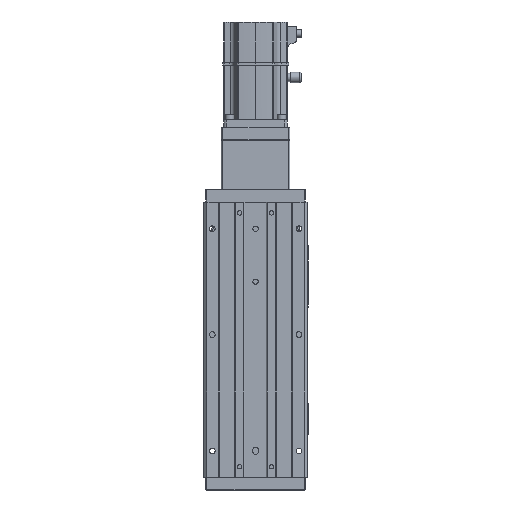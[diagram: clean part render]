
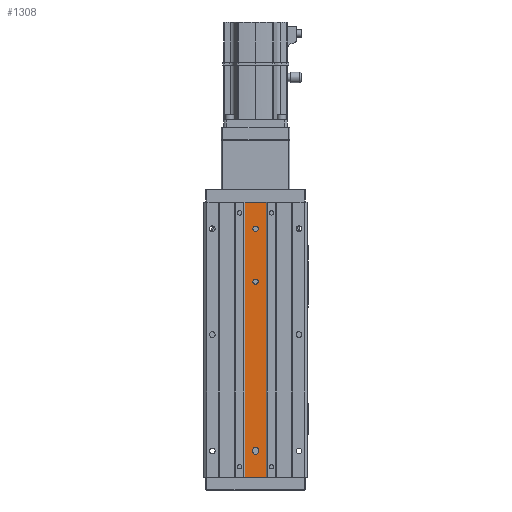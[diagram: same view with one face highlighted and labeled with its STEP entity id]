
A CAD part, front view. The second image highlights one B-rep face of the part: STEP entity #1308.
In plain terms, the highlighted planar face has unit normal (0, -1, 0).
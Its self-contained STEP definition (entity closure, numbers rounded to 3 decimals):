
#99 = VERTEX_POINT ( 'NONE', #14570 ) ;
#249 = CARTESIAN_POINT ( 'NONE',  ( 10., 1., -130. ) ) ;
#1196 = VERTEX_POINT ( 'NONE', #8279 ) ;
#1308 = ADVANCED_FACE ( 'NONE', ( #8927, #22074, #35220, #5700 ), #18856, .F. ) ;
#1505 = CIRCLE ( 'NONE', #25586, 2.5 ) ;
#1707 = VERTEX_POINT ( 'NONE', #28486 ) ;
#2454 = DIRECTION ( 'NONE',  ( 0., 1., 0. ) ) ;
#3198 = EDGE_CURVE ( 'NONE', #16963, #11637, #29784, .T. ) ;
#3485 = CIRCLE ( 'NONE', #27562, 2.5 ) ;
#3540 = DIRECTION ( 'NONE',  ( 0., 0., -1. ) ) ;
#3998 = ORIENTED_EDGE ( 'NONE', *, *, #33875, .F. ) ;
#4662 = DIRECTION ( 'NONE',  ( 1., 0., 0. ) ) ;
#5099 = EDGE_LOOP ( 'NONE', ( #39895, #3998 ) ) ;
#5700 = FACE_OUTER_BOUND ( 'NONE', #23909, .T. ) ;
#6306 = VECTOR ( 'NONE', #35194, 1000. ) ;
#6916 = VERTEX_POINT ( 'NONE', #35158 ) ;
#7768 = ORIENTED_EDGE ( 'NONE', *, *, #42453, .F. ) ;
#7834 = DIRECTION ( 'NONE',  ( 0., -1., 0. ) ) ;
#8279 = CARTESIAN_POINT ( 'NONE',  ( -2.5, 1., 55. ) ) ;
#8645 = LINE ( 'NONE', #21786, #31379 ) ;
#8903 = LINE ( 'NONE', #22048, #6306 ) ;
#8927 = FACE_BOUND ( 'NONE', #5099, .T. ) ;
#9121 = CARTESIAN_POINT ( 'NONE',  ( 10., 1., -130. ) ) ;
#9159 = CARTESIAN_POINT ( 'NONE',  ( 0., 1., 55. ) ) ;
#9421 = AXIS2_PLACEMENT_3D ( 'NONE', #31977, #2454, #15617 ) ;
#9915 = AXIS2_PLACEMENT_3D ( 'NONE', #37357, #7834, #20967 ) ;
#10653 = LINE ( 'NONE', #23769, #18841 ) ;
#11358 = VECTOR ( 'NONE', #3540, 1000. ) ;
#11394 = CARTESIAN_POINT ( 'NONE',  ( -2.5, 1., -106. ) ) ;
#11637 = VERTEX_POINT ( 'NONE', #12089 ) ;
#11895 = DIRECTION ( 'NONE',  ( 1., 0., 0. ) ) ;
#12089 = CARTESIAN_POINT ( 'NONE',  ( 10., 1., 130. ) ) ;
#12276 = ORIENTED_EDGE ( 'NONE', *, *, #3198, .T. ) ;
#12361 = DIRECTION ( 'NONE',  ( -1., 0., 0. ) ) ;
#12482 = CARTESIAN_POINT ( 'NONE',  ( -10., 1., -130. ) ) ;
#12852 = EDGE_CURVE ( 'NONE', #17468, #22545, #8903, .T. ) ;
#13048 = CARTESIAN_POINT ( 'NONE',  ( 0., 1., 105. ) ) ;
#13414 = DIRECTION ( 'NONE',  ( 0., 0., 1. ) ) ;
#14570 = CARTESIAN_POINT ( 'NONE',  ( -2.5, 1., -104. ) ) ;
#14939 = VECTOR ( 'NONE', #13414, 1000. ) ;
#15367 = CARTESIAN_POINT ( 'NONE',  ( 0., 1., -104. ) ) ;
#15617 = DIRECTION ( 'NONE',  ( -1., 0., 0. ) ) ;
#16157 = VERTEX_POINT ( 'NONE', #31662 ) ;
#16524 = VERTEX_POINT ( 'NONE', #11394 ) ;
#16963 = VERTEX_POINT ( 'NONE', #9121 ) ;
#17011 = CIRCLE ( 'NONE', #41093, 2.5 ) ;
#17468 = VERTEX_POINT ( 'NONE', #39797 ) ;
#17805 = EDGE_CURVE ( 'NONE', #39655, #6916, #18140, .T. ) ;
#18140 = CIRCLE ( 'NONE', #42247, 2.5 ) ;
#18841 = VECTOR ( 'NONE', #36937, 1000. ) ;
#18856 = PLANE ( 'NONE',  #9421 ) ;
#19154 = ORIENTED_EDGE ( 'NONE', *, *, #27933, .F. ) ;
#19751 = ORIENTED_EDGE ( 'NONE', *, *, #41214, .F. ) ;
#19926 = LINE ( 'NONE', #33058, #11358 ) ;
#20924 = EDGE_CURVE ( 'NONE', #16963, #38296, #28737, .T. ) ;
#20967 = DIRECTION ( 'NONE',  ( 1., 0., 0. ) ) ;
#21048 = CARTESIAN_POINT ( 'NONE',  ( 0., 1., 105. ) ) ;
#21786 = CARTESIAN_POINT ( 'NONE',  ( -10., 1., 130. ) ) ;
#22048 = CARTESIAN_POINT ( 'NONE',  ( 2.5, 1., -104. ) ) ;
#22074 = FACE_BOUND ( 'NONE', #38091, .T. ) ;
#22306 = DIRECTION ( 'NONE',  ( 0., -1., 0. ) ) ;
#22545 = VERTEX_POINT ( 'NONE', #40397 ) ;
#23769 = CARTESIAN_POINT ( 'NONE',  ( -10., 1., -130. ) ) ;
#23909 = EDGE_LOOP ( 'NONE', ( #32547, #19751, #41407, #12276 ) ) ;
#23971 = ORIENTED_EDGE ( 'NONE', *, *, #27517, .F. ) ;
#24574 = CIRCLE ( 'NONE', #30113, 2.5 ) ;
#25586 = AXIS2_PLACEMENT_3D ( 'NONE', #21048, #34174, #4662 ) ;
#26168 = DIRECTION ( 'NONE',  ( 0., -1., 0. ) ) ;
#26765 = EDGE_CURVE ( 'NONE', #11637, #1707, #8645, .T. ) ;
#27455 = ORIENTED_EDGE ( 'NONE', *, *, #12852, .F. ) ;
#27517 = EDGE_CURVE ( 'NONE', #1196, #16157, #17011, .T. ) ;
#27562 = AXIS2_PLACEMENT_3D ( 'NONE', #28249, #41422, #11895 ) ;
#27933 = EDGE_CURVE ( 'NONE', #22545, #99, #24574, .T. ) ;
#28249 = CARTESIAN_POINT ( 'NONE',  ( 0., 1., 55. ) ) ;
#28486 = CARTESIAN_POINT ( 'NONE',  ( -10., 1., 130. ) ) ;
#28488 = CIRCLE ( 'NONE', #9915, 2.5 ) ;
#28494 = DIRECTION ( 'NONE',  ( 0., -1., 0. ) ) ;
#28737 = LINE ( 'NONE', #41895, #33041 ) ;
#29719 = CARTESIAN_POINT ( 'NONE',  ( 2.5, 1., 105. ) ) ;
#29784 = LINE ( 'NONE', #249, #14939 ) ;
#30113 = AXIS2_PLACEMENT_3D ( 'NONE', #15367, #28494, #41652 ) ;
#31379 = VECTOR ( 'NONE', #34925, 1000. ) ;
#31662 = CARTESIAN_POINT ( 'NONE',  ( 2.5, 1., 55. ) ) ;
#31977 = CARTESIAN_POINT ( 'NONE',  ( -10., 1., -130. ) ) ;
#32547 = ORIENTED_EDGE ( 'NONE', *, *, #26765, .T. ) ;
#33041 = VECTOR ( 'NONE', #12361, 1000. ) ;
#33058 = CARTESIAN_POINT ( 'NONE',  ( -2.5, 1., -104. ) ) ;
#33875 = EDGE_CURVE ( 'NONE', #6916, #39655, #1505, .T. ) ;
#34174 = DIRECTION ( 'NONE',  ( 0., -1., 0. ) ) ;
#34925 = DIRECTION ( 'NONE',  ( -1., 0., 0. ) ) ;
#35158 = CARTESIAN_POINT ( 'NONE',  ( -2.5, 1., 105. ) ) ;
#35194 = DIRECTION ( 'NONE',  ( 0., 0., 1. ) ) ;
#35220 = FACE_BOUND ( 'NONE', #38474, .T. ) ;
#35452 = DIRECTION ( 'NONE',  ( 1., 0., 0. ) ) ;
#35969 = EDGE_CURVE ( 'NONE', #16524, #17468, #28488, .T. ) ;
#36937 = DIRECTION ( 'NONE',  ( 0., 0., 1. ) ) ;
#37357 = CARTESIAN_POINT ( 'NONE',  ( 0., 1., -106. ) ) ;
#37749 = EDGE_CURVE ( 'NONE', #16157, #1196, #3485, .T. ) ;
#38091 = EDGE_LOOP ( 'NONE', ( #38944, #23971 ) ) ;
#38296 = VERTEX_POINT ( 'NONE', #12482 ) ;
#38474 = EDGE_LOOP ( 'NONE', ( #7768, #19154, #27455, #40647 ) ) ;
#38944 = ORIENTED_EDGE ( 'NONE', *, *, #37749, .F. ) ;
#39337 = DIRECTION ( 'NONE',  ( 1., 0., 0. ) ) ;
#39655 = VERTEX_POINT ( 'NONE', #29719 ) ;
#39797 = CARTESIAN_POINT ( 'NONE',  ( 2.5, 1., -106. ) ) ;
#39895 = ORIENTED_EDGE ( 'NONE', *, *, #17805, .F. ) ;
#40397 = CARTESIAN_POINT ( 'NONE',  ( 2.5, 1., -104. ) ) ;
#40647 = ORIENTED_EDGE ( 'NONE', *, *, #35969, .F. ) ;
#41093 = AXIS2_PLACEMENT_3D ( 'NONE', #9159, #22306, #35452 ) ;
#41214 = EDGE_CURVE ( 'NONE', #38296, #1707, #10653, .T. ) ;
#41407 = ORIENTED_EDGE ( 'NONE', *, *, #20924, .F. ) ;
#41422 = DIRECTION ( 'NONE',  ( 0., -1., 0. ) ) ;
#41652 = DIRECTION ( 'NONE',  ( 1., 0., 0. ) ) ;
#41895 = CARTESIAN_POINT ( 'NONE',  ( -10., 1., -130. ) ) ;
#42247 = AXIS2_PLACEMENT_3D ( 'NONE', #13048, #26168, #39337 ) ;
#42453 = EDGE_CURVE ( 'NONE', #99, #16524, #19926, .T. ) ;
